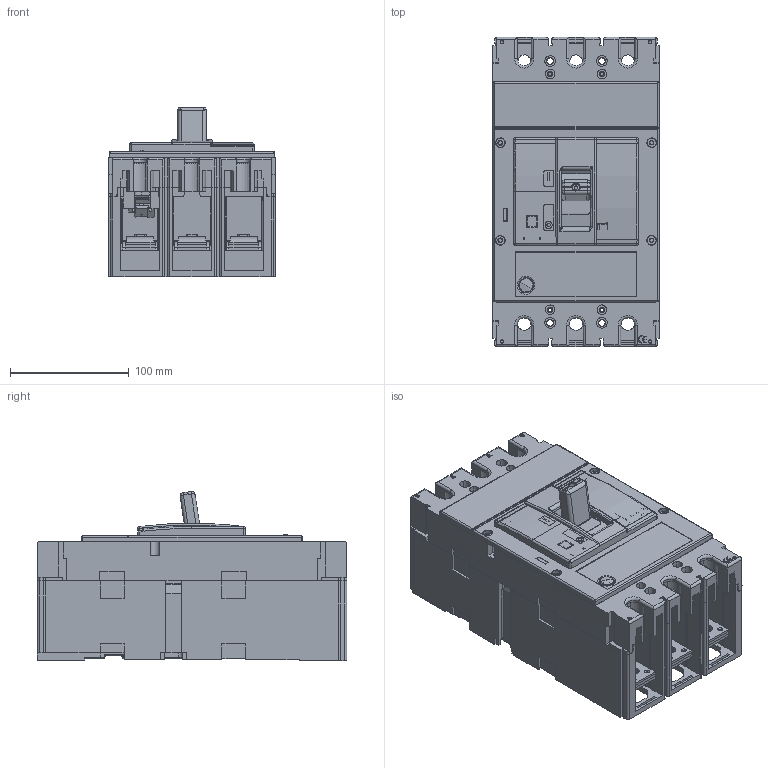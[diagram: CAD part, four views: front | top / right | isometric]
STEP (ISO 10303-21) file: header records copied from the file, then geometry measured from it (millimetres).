
FILE_DESCRIPTION(('CATIA V5 STEP Exchange','CAx-IF Rec.Pracs.--- Model Styling and Organization---1.2---2011-12-15'),'2;1');
FILE_NAME('C:\Users\Carlo Minelli\Desktop\Taglia 4.stp','2013-10-08T11:46:21+00:00',('Utente'),('Bticino S.p.A.'),'Version 5-6 Release 2012','CATIA V5 STEP AP214','none');
FILE_SCHEMA(('AUTOMOTIVE_DESIGN { 1 0 10303 214 1 1 1 1 }'));
Products named in the file (29): Product23; A006891AA; D15958H; 66316F; 78285; Z2081A; Z2015A; 68943; 66338; 66422; Z2083AAB; Y4219AAB; Y2252A; 66852A; Y3855A; 64742 mont1; 64742 mont2; 64743 mont; G000443AA; 68697; 68707; PIASTRINA68716; D15964; 66311; 64740; 64717.1; 78633
Assembly tree (37 placements, depth 3):
  Product23
    A006891AA
      D15958H
      66316F
      78285  x2
    Z2081A
      Z2015A
      68943  x3
      66338
      66422
    Z2083AAB
      Y4219AAB
      Y2252A
      66852A
    Y3855A
    64742 mont1
    64742 mont2
    64743 mont
    G000443AA
    68697  x3
    68707
    PIASTRINA68716
    68707  x2
    PIASTRINA68716  x2
    D15964  x3
      66311
      64740
      64717.1
      78633
Bounding box: 139.7 x 260 x 142.06 mm (x, y, z)
Volume: 1203867.4 mm3; surface area: 626832.3 mm2
Topology: 53 solids, 53 shells, 4900 faces, 13681 edges, 8927 vertices
Faces by surface type: plane 2909, cylinder 1524, cone 216, torus 161, bspline 64, sphere 15, extrusion 9, revolution 2
Entity records: 139627 total; most frequent: CARTESIAN_POINT 32382, ORIENTED_EDGE 24564, DIRECTION 17452, EDGE_CURVE 12282, VECTOR 8817, LINE 8808, VERTEX_POINT 8045, AXIS2_PLACEMENT_3D 5751
